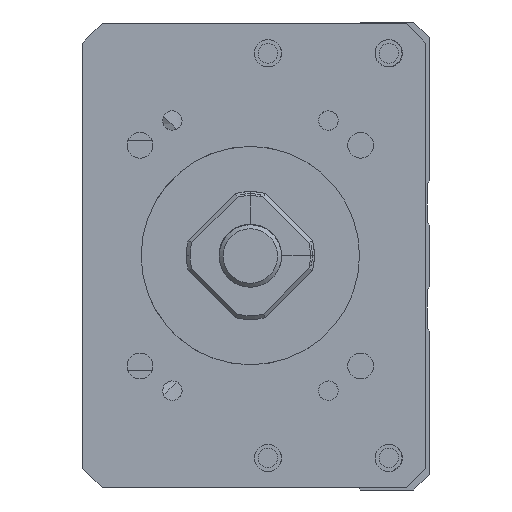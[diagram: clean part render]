
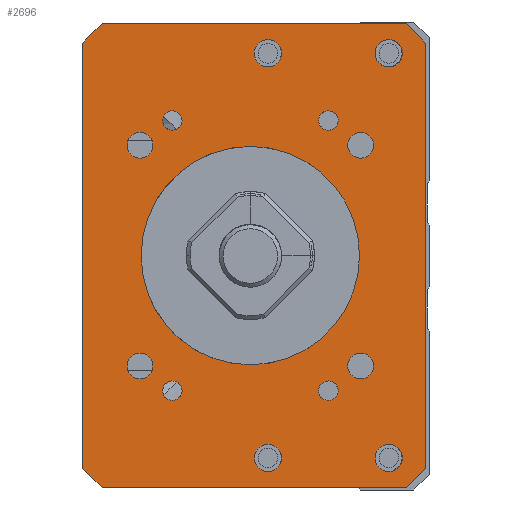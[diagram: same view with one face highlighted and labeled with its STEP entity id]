
A CAD part, left-side view. The second image highlights one B-rep face of the part: STEP entity #2696.
In plain terms, the highlighted planar face has unit normal (-1, 0, 0).
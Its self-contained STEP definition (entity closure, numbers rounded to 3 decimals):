
#1020=LINE('',#14695,#1850);
#1022=LINE('',#14719,#1852);
#1023=LINE('',#14721,#1853);
#1024=LINE('',#14723,#1854);
#1025=LINE('',#14725,#1855);
#1026=LINE('',#14727,#1856);
#1027=LINE('',#14729,#1857);
#1028=LINE('',#14731,#1858);
#1850=VECTOR('',#11726,1.);
#1852=VECTOR('',#11750,1.);
#1853=VECTOR('',#11751,1.);
#1854=VECTOR('',#11752,1.);
#1855=VECTOR('',#11753,1.);
#1856=VECTOR('',#11754,1.);
#1857=VECTOR('',#11755,1.);
#1858=VECTOR('',#11756,1.);
#2696=ADVANCED_FACE('',(#3713,#3714,#3715,#3716,#3717,#3718,#3719,#3720,
#3721,#3722,#3723,#3724,#3725,#3726),#3330,.F.);
#3330=PLANE('',#10685);
#3713=FACE_BOUND('',#4171,.T.);
#3714=FACE_BOUND('',#4172,.T.);
#3715=FACE_BOUND('',#4173,.T.);
#3716=FACE_BOUND('',#4174,.T.);
#3717=FACE_BOUND('',#4175,.T.);
#3718=FACE_BOUND('',#4176,.T.);
#3719=FACE_BOUND('',#4177,.T.);
#3720=FACE_BOUND('',#4178,.T.);
#3721=FACE_BOUND('',#4179,.T.);
#3722=FACE_BOUND('',#4180,.T.);
#3723=FACE_BOUND('',#4181,.T.);
#3724=FACE_BOUND('',#4182,.T.);
#3725=FACE_BOUND('',#4183,.T.);
#3726=FACE_BOUND('',#4184,.T.);
#4171=EDGE_LOOP('',(#5088));
#4172=EDGE_LOOP('',(#5089));
#4173=EDGE_LOOP('',(#5090));
#4174=EDGE_LOOP('',(#5091));
#4175=EDGE_LOOP('',(#5092));
#4176=EDGE_LOOP('',(#5093));
#4177=EDGE_LOOP('',(#5094));
#4178=EDGE_LOOP('',(#5095));
#4179=EDGE_LOOP('',(#5096));
#4180=EDGE_LOOP('',(#5097,#5098,#5099,#5100,#5101,#5102,#5103,#5104));
#4181=EDGE_LOOP('',(#5105));
#4182=EDGE_LOOP('',(#5106));
#4183=EDGE_LOOP('',(#5107));
#4184=EDGE_LOOP('',(#5108));
#5088=ORIENTED_EDGE('',*,*,#8899,.F.);
#5089=ORIENTED_EDGE('',*,*,#8900,.F.);
#5090=ORIENTED_EDGE('',*,*,#8901,.F.);
#5091=ORIENTED_EDGE('',*,*,#8902,.F.);
#5092=ORIENTED_EDGE('',*,*,#8903,.F.);
#5093=ORIENTED_EDGE('',*,*,#8904,.T.);
#5094=ORIENTED_EDGE('',*,*,#8905,.F.);
#5095=ORIENTED_EDGE('',*,*,#8906,.F.);
#5096=ORIENTED_EDGE('',*,*,#8907,.F.);
#5097=ORIENTED_EDGE('',*,*,#8896,.T.);
#5098=ORIENTED_EDGE('',*,*,#8908,.T.);
#5099=ORIENTED_EDGE('',*,*,#8909,.F.);
#5100=ORIENTED_EDGE('',*,*,#8910,.T.);
#5101=ORIENTED_EDGE('',*,*,#8911,.F.);
#5102=ORIENTED_EDGE('',*,*,#8912,.T.);
#5103=ORIENTED_EDGE('',*,*,#8913,.T.);
#5104=ORIENTED_EDGE('',*,*,#8914,.T.);
#5105=ORIENTED_EDGE('',*,*,#8915,.F.);
#5106=ORIENTED_EDGE('',*,*,#8916,.F.);
#5107=ORIENTED_EDGE('',*,*,#8917,.F.);
#5108=ORIENTED_EDGE('',*,*,#8876,.F.);
#7880=VERTEX_POINT('',#14618);
#7900=VERTEX_POINT('',#14694);
#7901=VERTEX_POINT('',#14696);
#7903=VERTEX_POINT('',#14702);
#7904=VERTEX_POINT('',#14704);
#7905=VERTEX_POINT('',#14706);
#7906=VERTEX_POINT('',#14708);
#7907=VERTEX_POINT('',#14710);
#7908=VERTEX_POINT('',#14712);
#7909=VERTEX_POINT('',#14714);
#7910=VERTEX_POINT('',#14716);
#7911=VERTEX_POINT('',#14718);
#7912=VERTEX_POINT('',#14720);
#7913=VERTEX_POINT('',#14722);
#7914=VERTEX_POINT('',#14724);
#7915=VERTEX_POINT('',#14726);
#7916=VERTEX_POINT('',#14728);
#7917=VERTEX_POINT('',#14730);
#7918=VERTEX_POINT('',#14733);
#7919=VERTEX_POINT('',#14735);
#7920=VERTEX_POINT('',#14737);
#8876=EDGE_CURVE('',#7880,#7880,#10284,.T.);
#8896=EDGE_CURVE('',#7901,#7900,#1020,.T.);
#8899=EDGE_CURVE('',#7903,#7903,#10293,.T.);
#8900=EDGE_CURVE('',#7904,#7904,#10294,.T.);
#8901=EDGE_CURVE('',#7905,#7905,#10295,.T.);
#8902=EDGE_CURVE('',#7906,#7906,#10296,.T.);
#8903=EDGE_CURVE('',#7907,#7907,#10297,.T.);
#8904=EDGE_CURVE('',#7908,#7908,#10298,.T.);
#8905=EDGE_CURVE('',#7909,#7909,#10299,.T.);
#8906=EDGE_CURVE('',#7910,#7910,#10300,.T.);
#8907=EDGE_CURVE('',#7911,#7911,#10301,.T.);
#8908=EDGE_CURVE('',#7900,#7912,#1022,.T.);
#8909=EDGE_CURVE('',#7913,#7912,#1023,.T.);
#8910=EDGE_CURVE('',#7913,#7914,#1024,.T.);
#8911=EDGE_CURVE('',#7915,#7914,#1025,.T.);
#8912=EDGE_CURVE('',#7915,#7916,#1026,.T.);
#8913=EDGE_CURVE('',#7916,#7917,#1027,.T.);
#8914=EDGE_CURVE('',#7917,#7901,#1028,.T.);
#8915=EDGE_CURVE('',#7918,#7918,#10302,.T.);
#8916=EDGE_CURVE('',#7919,#7919,#10303,.T.);
#8917=EDGE_CURVE('',#7920,#7920,#10304,.T.);
#10284=CIRCLE('',#10662,14.);
#10293=CIRCLE('',#10673,1.65);
#10294=CIRCLE('',#10674,1.65);
#10295=CIRCLE('',#10675,1.65);
#10296=CIRCLE('',#10676,1.65);
#10297=CIRCLE('',#10677,1.25);
#10298=CIRCLE('',#10678,1.75);
#10299=CIRCLE('',#10679,1.25);
#10300=CIRCLE('',#10680,1.75);
#10301=CIRCLE('',#10681,1.25);
#10302=CIRCLE('',#10682,1.75);
#10303=CIRCLE('',#10683,1.75);
#10304=CIRCLE('',#10684,1.25);
#10662=AXIS2_PLACEMENT_3D('',#14617,#11700,#11701);
#10673=AXIS2_PLACEMENT_3D('',#14701,#11732,#11733);
#10674=AXIS2_PLACEMENT_3D('',#14703,#11734,#11735);
#10675=AXIS2_PLACEMENT_3D('',#14705,#11736,#11737);
#10676=AXIS2_PLACEMENT_3D('',#14707,#11738,#11739);
#10677=AXIS2_PLACEMENT_3D('',#14709,#11740,#11741);
#10678=AXIS2_PLACEMENT_3D('',#14711,#11742,#11743);
#10679=AXIS2_PLACEMENT_3D('',#14713,#11744,#11745);
#10680=AXIS2_PLACEMENT_3D('',#14715,#11746,#11747);
#10681=AXIS2_PLACEMENT_3D('',#14717,#11748,#11749);
#10682=AXIS2_PLACEMENT_3D('',#14732,#11757,#11758);
#10683=AXIS2_PLACEMENT_3D('',#14734,#11759,#11760);
#10684=AXIS2_PLACEMENT_3D('',#14736,#11761,#11762);
#10685=AXIS2_PLACEMENT_3D('',#14738,#11763,#11764);
#11700=DIRECTION('',(-1.,0.,0.));
#11701=DIRECTION('',(0.,1.,0.));
#11726=DIRECTION('',(0.,0.,-1.));
#11732=DIRECTION('',(-1.,0.,0.));
#11733=DIRECTION('',(0.,0.,1.));
#11734=DIRECTION('',(-1.,0.,0.));
#11735=DIRECTION('',(0.,0.,1.));
#11736=DIRECTION('',(-1.,0.,0.));
#11737=DIRECTION('',(0.,0.,1.));
#11738=DIRECTION('',(-1.,0.,0.));
#11739=DIRECTION('',(0.,0.,1.));
#11740=DIRECTION('',(-1.,0.,0.));
#11741=DIRECTION('',(0.,1.,0.));
#11742=DIRECTION('',(1.,0.,0.));
#11743=DIRECTION('',(0.,0.,1.));
#11744=DIRECTION('',(-1.,0.,0.));
#11745=DIRECTION('',(0.,1.,0.));
#11746=DIRECTION('',(-1.,0.,0.));
#11747=DIRECTION('',(0.,0.,1.));
#11748=DIRECTION('',(-1.,0.,0.));
#11749=DIRECTION('',(0.,1.,0.));
#11750=DIRECTION('',(0.,-0.707,-0.707));
#11751=DIRECTION('',(0.,1.,0.));
#11752=DIRECTION('',(0.,-0.707,0.707));
#11753=DIRECTION('',(0.,0.,-1.));
#11754=DIRECTION('',(0.,0.707,0.707));
#11755=DIRECTION('',(0.,1.,0.));
#11756=DIRECTION('',(0.,0.707,-0.707));
#11757=DIRECTION('',(-1.,0.,0.));
#11758=DIRECTION('',(0.,0.,1.));
#11759=DIRECTION('',(-1.,0.,0.));
#11760=DIRECTION('',(0.,0.,1.));
#11761=DIRECTION('',(-1.,0.,0.));
#11762=DIRECTION('',(0.,1.,0.));
#11763=DIRECTION('',(1.,0.,0.));
#11764=DIRECTION('',(0.,1.,0.));
#14617=CARTESIAN_POINT('',(-211.,0.,-100.));
#14618=CARTESIAN_POINT('',(-211.,14.,-100.));
#14694=CARTESIAN_POINT('',(-211.,21.499,-127.25));
#14695=CARTESIAN_POINT('',(-211.,21.499,-70.25));
#14696=CARTESIAN_POINT('',(-211.,21.499,-72.75));
#14701=CARTESIAN_POINT('',(-211.,14.142,-85.858));
#14702=CARTESIAN_POINT('',(-211.,14.142,-84.208));
#14703=CARTESIAN_POINT('',(-211.,-14.142,-85.858));
#14704=CARTESIAN_POINT('',(-211.,-14.142,-84.208));
#14705=CARTESIAN_POINT('',(-211.,14.142,-114.142));
#14706=CARTESIAN_POINT('',(-211.,14.142,-112.492));
#14707=CARTESIAN_POINT('',(-211.,-14.142,-114.142));
#14708=CARTESIAN_POINT('',(-211.,-14.142,-112.492));
#14709=CARTESIAN_POINT('',(-211.,-10.,-117.321));
#14710=CARTESIAN_POINT('',(-211.,-8.75,-117.321));
#14711=CARTESIAN_POINT('',(-211.,-2.25,-125.936));
#14712=CARTESIAN_POINT('',(-211.,-2.25,-124.186));
#14713=CARTESIAN_POINT('',(-211.,10.,-82.679));
#14714=CARTESIAN_POINT('',(-211.,11.25,-82.679));
#14715=CARTESIAN_POINT('',(-211.,-2.25,-74.064));
#14716=CARTESIAN_POINT('',(-211.,-2.25,-72.314));
#14717=CARTESIAN_POINT('',(-211.,10.,-117.321));
#14718=CARTESIAN_POINT('',(-211.,11.25,-117.321));
#14719=CARTESIAN_POINT('',(-211.,18.999,-129.75));
#14720=CARTESIAN_POINT('',(-211.,18.999,-129.75));
#14721=CARTESIAN_POINT('',(-211.,-22.501,-129.75));
#14722=CARTESIAN_POINT('',(-211.,-20.001,-129.75));
#14723=CARTESIAN_POINT('',(-211.,-22.501,-127.25));
#14724=CARTESIAN_POINT('',(-211.,-22.501,-127.25));
#14725=CARTESIAN_POINT('',(-211.,-22.501,-70.25));
#14726=CARTESIAN_POINT('',(-211.,-22.501,-72.75));
#14727=CARTESIAN_POINT('',(-211.,-22.501,-72.75));
#14728=CARTESIAN_POINT('',(-211.,-20.001,-70.25));
#14729=CARTESIAN_POINT('',(-211.,-22.501,-70.25));
#14730=CARTESIAN_POINT('',(-211.,18.999,-70.25));
#14731=CARTESIAN_POINT('',(-211.,18.999,-70.25));
#14732=CARTESIAN_POINT('',(-211.,-17.75,-74.064));
#14733=CARTESIAN_POINT('',(-211.,-17.75,-72.314));
#14734=CARTESIAN_POINT('',(-211.,-17.75,-125.936));
#14735=CARTESIAN_POINT('',(-211.,-17.75,-124.186));
#14736=CARTESIAN_POINT('',(-211.,-10.,-82.679));
#14737=CARTESIAN_POINT('',(-211.,-8.75,-82.679));
#14738=CARTESIAN_POINT('',(-211.,-22.501,-70.25));
